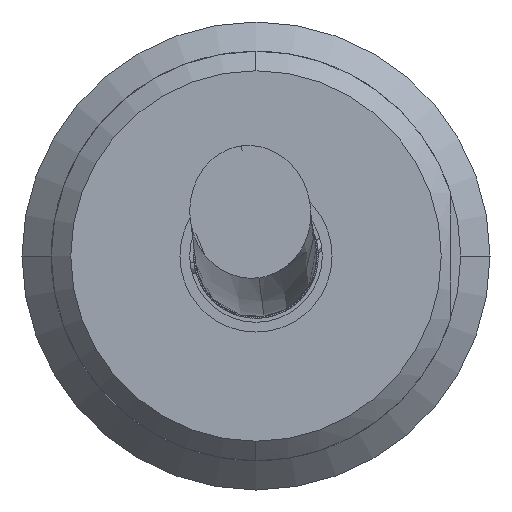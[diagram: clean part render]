
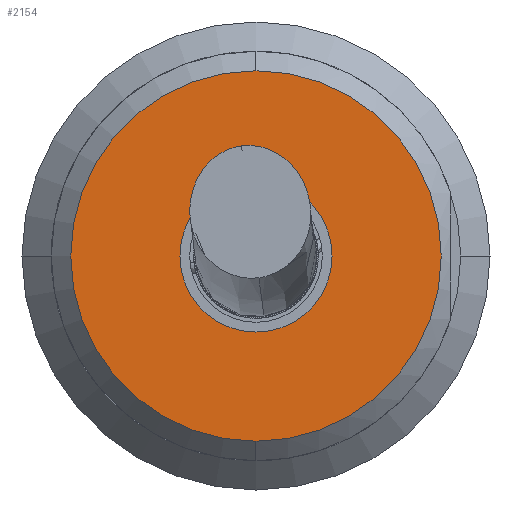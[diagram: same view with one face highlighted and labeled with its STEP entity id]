
A CAD part, left-side view. The second image highlights one B-rep face of the part: STEP entity #2154.
In plain terms, the highlighted planar face has unit normal (-1, 0, 0) as drawn and (0, 0, -1) by its records, which use the part's own axes.
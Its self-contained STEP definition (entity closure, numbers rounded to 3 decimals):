
#1632=CARTESIAN_POINT('',(0.,0.,-7.5));
#1633=DIRECTION('',(0.,0.,-1.));
#1634=DIRECTION('',(0.,1.,0.));
#1635=AXIS2_PLACEMENT_3D('',#1632,#1633,#1634);
#1637=CARTESIAN_POINT('',(0.,0.,-7.5));
#1638=DIRECTION('',(0.,0.,1.));
#1639=DIRECTION('',(0.,1.,0.));
#1640=AXIS2_PLACEMENT_3D('',#1637,#1638,#1639);
#1642=CARTESIAN_POINT('',(0.,0.,-7.5));
#1643=DIRECTION('',(0.,0.,1.));
#1644=DIRECTION('',(0.,-1.,0.));
#1645=AXIS2_PLACEMENT_3D('',#1642,#1643,#1644);
#1647=CARTESIAN_POINT('',(0.,0.,-7.5));
#1648=DIRECTION('',(0.,0.,1.));
#1649=DIRECTION('',(0.,1.,0.));
#1650=AXIS2_PLACEMENT_3D('',#1647,#1648,#1649);
#1805=CARTESIAN_POINT('',(0.,1.95,-7.5));
#1807=VERTEX_POINT('',#1805);
#1809=CARTESIAN_POINT('',(0.,-1.95,-7.5));
#1811=VERTEX_POINT('',#1809);
#1872=CARTESIAN_POINT('',(0.,-4.75,-7.5));
#1873=CARTESIAN_POINT('',(0.,4.75,-7.5));
#1874=VERTEX_POINT('',#1872);
#1875=VERTEX_POINT('',#1873);
#2139=CARTESIAN_POINT('',(0.,0.,-7.5));
#2140=DIRECTION('',(0.,0.,-1.));
#2141=DIRECTION('',(0.,-1.,0.));
#2142=AXIS2_PLACEMENT_3D('',#2139,#2140,#2141);
#2143=PLANE('',#2142);
#2144=ORIENTED_EDGE('',*,*,#2133,.T.);
#2145=ORIENTED_EDGE('',*,*,#2118,.T.);
#2146=EDGE_LOOP('',(#2144,#2145));
#2147=FACE_OUTER_BOUND('',#2146,.F.);
#2149=ORIENTED_EDGE('',*,*,#2148,.T.);
#2151=ORIENTED_EDGE('',*,*,#2150,.F.);
#2152=EDGE_LOOP('',(#2149,#2151));
#2153=FACE_BOUND('',#2152,.F.);
#1636=CIRCLE('',#1635,1.95);
#1641=CIRCLE('',#1640,1.95);
#1646=CIRCLE('',#1645,4.75);
#1651=CIRCLE('',#1650,4.75);
#2118=EDGE_CURVE('',#1875,#1874,#1651,.T.);
#2133=EDGE_CURVE('',#1874,#1875,#1646,.T.);
#2148=EDGE_CURVE('',#1807,#1811,#1636,.T.);
#2150=EDGE_CURVE('',#1807,#1811,#1641,.T.);
#2154=ADVANCED_FACE('',(#2147,#2153),#2143,.T.);
